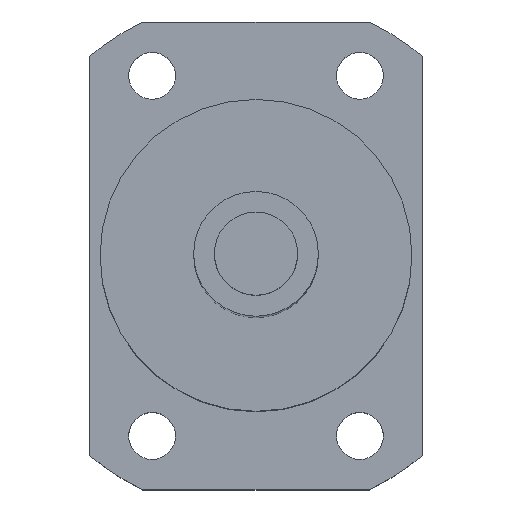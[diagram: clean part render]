
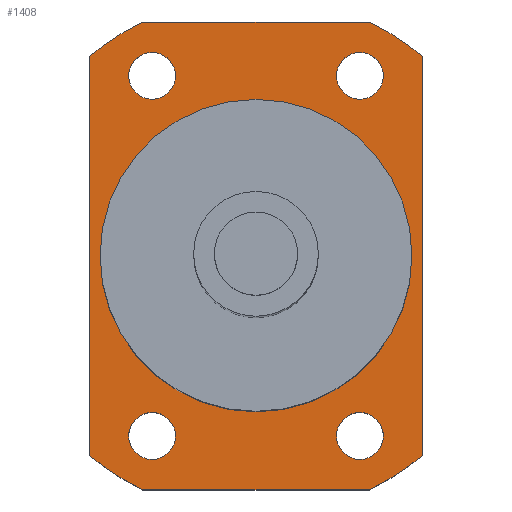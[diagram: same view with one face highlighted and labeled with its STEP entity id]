
A CAD part, top view. The second image highlights one B-rep face of the part: STEP entity #1408.
In plain terms, the highlighted planar face has unit normal (0, 0, 1).
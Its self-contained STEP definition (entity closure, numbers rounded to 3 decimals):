
#328=CARTESIAN_POINT('',(10.,17.321,155.));
#329=DIRECTION('',(0.,0.,-1.));
#330=DIRECTION('',(1.,0.,0.));
#331=AXIS2_PLACEMENT_3D('',#328,#329,#330);
#333=CARTESIAN_POINT('',(10.,17.321,155.));
#334=DIRECTION('',(0.,0.,-1.));
#335=DIRECTION('',(-1.,0.,0.));
#336=AXIS2_PLACEMENT_3D('',#333,#334,#335);
#338=CARTESIAN_POINT('',(-10.,17.321,155.));
#339=DIRECTION('',(0.,0.,-1.));
#340=DIRECTION('',(1.,0.,0.));
#341=AXIS2_PLACEMENT_3D('',#338,#339,#340);
#343=CARTESIAN_POINT('',(-10.,17.321,155.));
#344=DIRECTION('',(0.,0.,-1.));
#345=DIRECTION('',(-1.,0.,0.));
#346=AXIS2_PLACEMENT_3D('',#343,#344,#345);
#348=CARTESIAN_POINT('',(10.,-17.321,155.));
#349=DIRECTION('',(0.,0.,-1.));
#350=DIRECTION('',(1.,0.,0.));
#351=AXIS2_PLACEMENT_3D('',#348,#349,#350);
#353=CARTESIAN_POINT('',(10.,-17.321,155.));
#354=DIRECTION('',(0.,0.,-1.));
#355=DIRECTION('',(-1.,0.,0.));
#356=AXIS2_PLACEMENT_3D('',#353,#354,#355);
#358=CARTESIAN_POINT('',(-10.,-17.321,155.));
#359=DIRECTION('',(0.,0.,-1.));
#360=DIRECTION('',(1.,0.,0.));
#361=AXIS2_PLACEMENT_3D('',#358,#359,#360);
#363=CARTESIAN_POINT('',(-10.,-17.321,155.));
#364=DIRECTION('',(0.,0.,-1.));
#365=DIRECTION('',(-1.,0.,0.));
#366=AXIS2_PLACEMENT_3D('',#363,#364,#365);
#368=CARTESIAN_POINT('',(0.,0.,155.));
#369=DIRECTION('',(0.,0.,1.));
#370=DIRECTION('',(1.,0.,0.));
#371=AXIS2_PLACEMENT_3D('',#368,#369,#370);
#373=CARTESIAN_POINT('',(0.,0.,155.));
#374=DIRECTION('',(0.,0.,1.));
#375=DIRECTION('',(-1.,0.,0.));
#376=AXIS2_PLACEMENT_3D('',#373,#374,#375);
#378=DIRECTION('',(1.,0.,0.));
#379=VECTOR('',#378,21.794);
#380=CARTESIAN_POINT('',(-10.897,22.5,155.));
#381=LINE('',#380,#379);
#382=CARTESIAN_POINT('',(0.,0.,155.));
#383=DIRECTION('',(0.,0.,1.));
#384=DIRECTION('',(0.64,0.768,0.));
#385=AXIS2_PLACEMENT_3D('',#382,#383,#384);
#387=DIRECTION('',(0.,1.,0.));
#388=VECTOR('',#387,38.419);
#389=CARTESIAN_POINT('',(16.,-19.209,155.));
#390=LINE('',#389,#388);
#391=CARTESIAN_POINT('',(0.,0.,155.));
#392=DIRECTION('',(0.,0.,1.));
#393=DIRECTION('',(0.436,-0.9,0.));
#394=AXIS2_PLACEMENT_3D('',#391,#392,#393);
#396=DIRECTION('',(1.,0.,0.));
#397=VECTOR('',#396,21.794);
#398=CARTESIAN_POINT('',(-10.897,-22.5,155.));
#399=LINE('',#398,#397);
#400=CARTESIAN_POINT('',(0.,0.,155.));
#401=DIRECTION('',(0.,0.,1.));
#402=DIRECTION('',(-0.64,-0.768,0.));
#403=AXIS2_PLACEMENT_3D('',#400,#401,#402);
#405=DIRECTION('',(0.,-1.,0.));
#406=VECTOR('',#405,38.419);
#407=CARTESIAN_POINT('',(-16.,19.209,155.));
#408=LINE('',#407,#406);
#409=CARTESIAN_POINT('',(0.,0.,155.));
#410=DIRECTION('',(0.,0.,1.));
#411=DIRECTION('',(-0.436,0.9,0.));
#412=AXIS2_PLACEMENT_3D('',#409,#410,#411);
#721=CARTESIAN_POINT('',(12.25,17.321,155.));
#722=CARTESIAN_POINT('',(7.75,17.321,155.));
#723=VERTEX_POINT('',#721);
#724=VERTEX_POINT('',#722);
#725=CARTESIAN_POINT('',(-7.75,17.321,155.));
#726=CARTESIAN_POINT('',(-12.25,17.321,155.));
#727=VERTEX_POINT('',#725);
#728=VERTEX_POINT('',#726);
#729=CARTESIAN_POINT('',(12.25,-17.321,155.));
#730=CARTESIAN_POINT('',(7.75,-17.321,155.));
#731=VERTEX_POINT('',#729);
#732=VERTEX_POINT('',#730);
#733=CARTESIAN_POINT('',(-7.75,-17.321,155.));
#734=CARTESIAN_POINT('',(-12.25,-17.321,155.));
#735=VERTEX_POINT('',#733);
#736=VERTEX_POINT('',#734);
#737=CARTESIAN_POINT('',(-16.,19.209,155.));
#738=CARTESIAN_POINT('',(-16.,-19.209,155.));
#739=VERTEX_POINT('',#737);
#740=VERTEX_POINT('',#738);
#741=CARTESIAN_POINT('',(16.,-19.209,155.));
#742=CARTESIAN_POINT('',(16.,19.209,155.));
#743=VERTEX_POINT('',#741);
#744=VERTEX_POINT('',#742);
#753=CARTESIAN_POINT('',(15.,0.,155.));
#754=CARTESIAN_POINT('',(-15.,0.,155.));
#755=VERTEX_POINT('',#753);
#756=VERTEX_POINT('',#754);
#829=CARTESIAN_POINT('',(-10.897,22.5,155.));
#830=CARTESIAN_POINT('',(10.897,22.5,155.));
#831=VERTEX_POINT('',#829);
#832=VERTEX_POINT('',#830);
#833=CARTESIAN_POINT('',(-10.897,-22.5,155.));
#834=CARTESIAN_POINT('',(10.897,-22.5,155.));
#835=VERTEX_POINT('',#833);
#836=VERTEX_POINT('',#834);
#1357=CARTESIAN_POINT('',(0.,0.,155.));
#1358=DIRECTION('',(0.,0.,1.));
#1359=DIRECTION('',(1.,0.,0.));
#1360=AXIS2_PLACEMENT_3D('',#1357,#1358,#1359);
#1361=PLANE('',#1360);
#1363=ORIENTED_EDGE('',*,*,#1362,.T.);
#1365=ORIENTED_EDGE('',*,*,#1364,.F.);
#1367=ORIENTED_EDGE('',*,*,#1366,.F.);
#1369=ORIENTED_EDGE('',*,*,#1368,.F.);
#1371=ORIENTED_EDGE('',*,*,#1370,.F.);
#1373=ORIENTED_EDGE('',*,*,#1372,.F.);
#1375=ORIENTED_EDGE('',*,*,#1374,.F.);
#1377=ORIENTED_EDGE('',*,*,#1376,.F.);
#1378=EDGE_LOOP('',(#1363,#1365,#1367,#1369,#1371,#1373,#1375,#1377));
#1379=FACE_OUTER_BOUND('',#1378,.F.);
#1380=ORIENTED_EDGE('',*,*,#1337,.F.);
#1381=ORIENTED_EDGE('',*,*,#1351,.F.);
#1382=EDGE_LOOP('',(#1380,#1381));
#1383=FACE_BOUND('',#1382,.F.);
#1385=ORIENTED_EDGE('',*,*,#1384,.F.);
#1387=ORIENTED_EDGE('',*,*,#1386,.F.);
#1388=EDGE_LOOP('',(#1385,#1387));
#1389=FACE_BOUND('',#1388,.F.);
#1391=ORIENTED_EDGE('',*,*,#1390,.F.);
#1393=ORIENTED_EDGE('',*,*,#1392,.F.);
#1394=EDGE_LOOP('',(#1391,#1393));
#1395=FACE_BOUND('',#1394,.F.);
#1397=ORIENTED_EDGE('',*,*,#1396,.F.);
#1399=ORIENTED_EDGE('',*,*,#1398,.F.);
#1400=EDGE_LOOP('',(#1397,#1399));
#1401=FACE_BOUND('',#1400,.F.);
#1403=ORIENTED_EDGE('',*,*,#1402,.T.);
#1405=ORIENTED_EDGE('',*,*,#1404,.T.);
#1406=EDGE_LOOP('',(#1403,#1405));
#1407=FACE_BOUND('',#1406,.F.);
#1408=ADVANCED_FACE('',(#1379,#1383,#1389,#1395,#1401,#1407),#1361,.T.);
#332=CIRCLE('',#331,2.25);
#337=CIRCLE('',#336,2.25);
#342=CIRCLE('',#341,2.25);
#347=CIRCLE('',#346,2.25);
#352=CIRCLE('',#351,2.25);
#357=CIRCLE('',#356,2.25);
#362=CIRCLE('',#361,2.25);
#367=CIRCLE('',#366,2.25);
#372=CIRCLE('',#371,15.);
#377=CIRCLE('',#376,15.);
#386=CIRCLE('',#385,25.);
#395=CIRCLE('',#394,25.);
#404=CIRCLE('',#403,25.);
#413=CIRCLE('',#412,25.);
#1337=EDGE_CURVE('',#723,#724,#332,.T.);
#1351=EDGE_CURVE('',#724,#723,#337,.T.);
#1362=EDGE_CURVE('',#831,#832,#381,.T.);
#1364=EDGE_CURVE('',#744,#832,#386,.T.);
#1366=EDGE_CURVE('',#743,#744,#390,.T.);
#1368=EDGE_CURVE('',#836,#743,#395,.T.);
#1370=EDGE_CURVE('',#835,#836,#399,.T.);
#1372=EDGE_CURVE('',#740,#835,#404,.T.);
#1374=EDGE_CURVE('',#739,#740,#408,.T.);
#1376=EDGE_CURVE('',#831,#739,#413,.T.);
#1384=EDGE_CURVE('',#727,#728,#342,.T.);
#1386=EDGE_CURVE('',#728,#727,#347,.T.);
#1390=EDGE_CURVE('',#731,#732,#352,.T.);
#1392=EDGE_CURVE('',#732,#731,#357,.T.);
#1396=EDGE_CURVE('',#735,#736,#362,.T.);
#1398=EDGE_CURVE('',#736,#735,#367,.T.);
#1402=EDGE_CURVE('',#755,#756,#372,.T.);
#1404=EDGE_CURVE('',#756,#755,#377,.T.);
